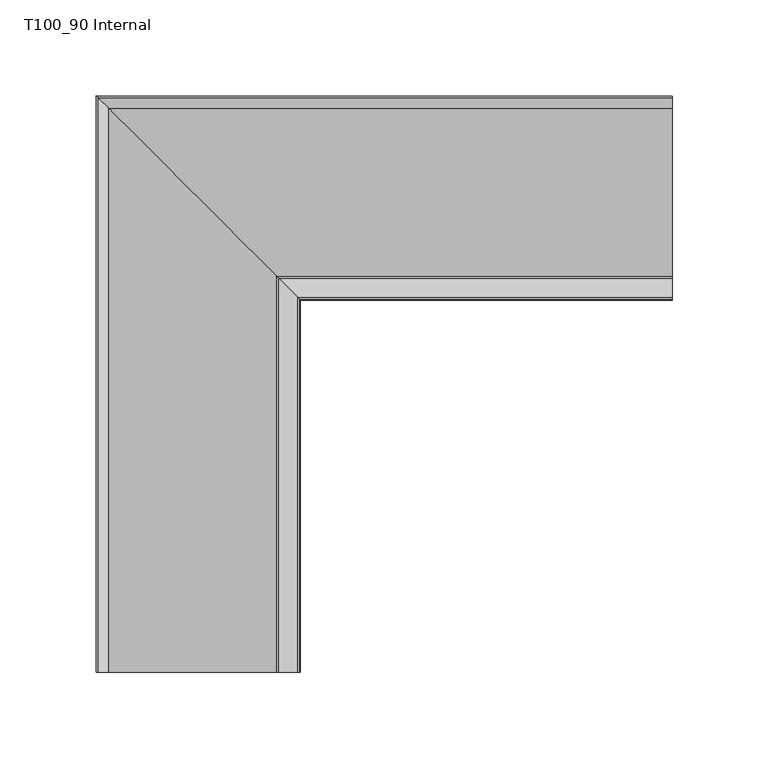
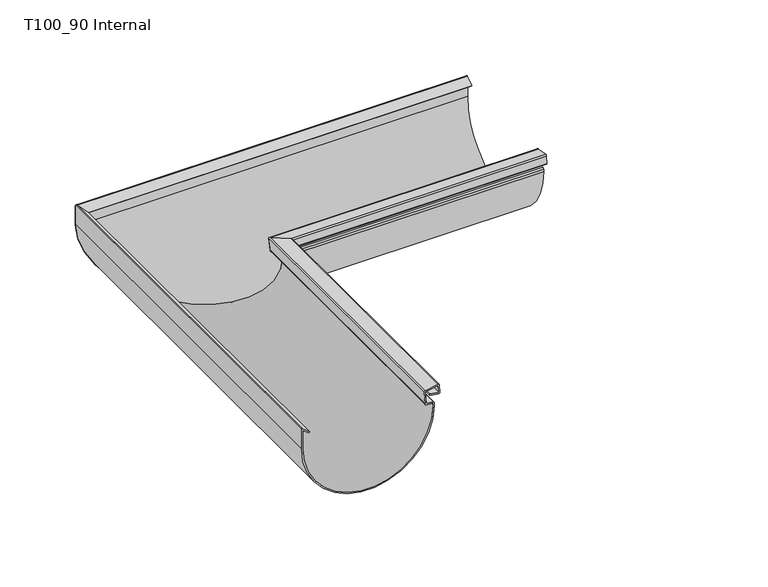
"""IFC4 building model written with IfcOpenShell, lengths in millimetres: proxy geometry, GROVIK_Gutter_Corner : T100_90 Internal."""

import ifcopenshell
import ifcopenshell.guid

model = None  # the IFC model being written
_history = None  # IfcOwnerHistory: only IFC2X3 demands one
_inside = {}  # id of a spatial element -> (the spatial element, [elements in it])
_under = {}  # id of a project, library or spatial element -> (it, [spatial elements below it])
_declared = {}  # id of a project -> (the project, [libraries it declares])
_typed = {}  # id of a type object -> (the type object, [elements of that type])
_made_of = {}  # id of a material, layer set ... -> (it, [elements and type objects made of it])


def new_model(schema):
    """Start an empty IFC model of exactly this schema.

    Asked for "IFC4X3", IfcOpenShell would pick the latest addendum, in which some entities
    have other attributes; the version numbers below select the first issue.
    IFC2X3 requires an IfcOwnerHistory on every rooted entity: one is made here for all.
    """
    global model, _history
    if schema == "IFC4X3":
        model = ifcopenshell.file(schema_version=(4, 3, 0, 0))
    else:
        model = ifcopenshell.file(schema=schema)
    _inside.clear()
    _under.clear()
    _declared.clear()
    _typed.clear()
    _made_of.clear()
    _history = None
    if model.schema == "IFC2X3":
        org = make("IfcOrganization", Name="unknown")
        user = make(
            "IfcPersonAndOrganization",
            ThePerson=make("IfcPerson", FamilyName="unknown"),
            TheOrganization=org,
        )
        app = make(
            "IfcApplication",
            ApplicationDeveloper=org,
            Version="unknown",
            ApplicationFullName="unknown",
            ApplicationIdentifier="unknown",
        )
        _history = make(
            "IfcOwnerHistory",
            OwningUser=user,
            OwningApplication=app,
            ChangeAction="ADDED",
            CreationDate=0,
        )
    return model


def make(cls, **values):
    """One entity of the class cls with the attributes given. An attribute that is None is left unset."""
    return model.create_entity(
        cls, **{name: value for name, value in values.items() if value is not None}
    )


def rooted(cls, **values):
    """An entity with a GlobalId (a new one), such as an element, a storey or a relation."""
    return make(cls, GlobalId=ifcopenshell.guid.new(), OwnerHistory=_history, **values)


def si_unit(unit_type, name, prefix=None):
    """IfcSIUnit, for example si_unit("LENGTHUNIT", "METRE", prefix="MILLI")."""
    return make("IfcSIUnit", UnitType=unit_type, Prefix=prefix, Name=name)


def assignment(units):
    """IfcUnitAssignment: the units of a project."""
    return None if units is None else make("IfcUnitAssignment", Units=units)


def point(xyz):
    """IfcCartesianPoint."""
    return None if xyz is None else make("IfcCartesianPoint", Coordinates=xyz)


def direction(xyz):
    """IfcDirection."""
    return None if xyz is None else make("IfcDirection", DirectionRatios=xyz)


def frame(location, z_axis=None, x_axis=None):
    """IfcAxis2Placement3D, a coordinate frame: its origin and axes. An axis left out is left unset."""
    return make(
        "IfcAxis2Placement3D",
        Location=point(location),
        Axis=direction(z_axis),
        RefDirection=direction(x_axis),
    )


def origin():
    """The frame at (0, 0, 0) with its axes left unset."""
    return frame((0.0, 0.0, 0.0))


def place(relative_to, where):
    """IfcLocalPlacement: puts the frame where relative to a parent placement (None: the world)."""
    return make(
        "IfcLocalPlacement", PlacementRelTo=relative_to, RelativePlacement=where
    )


def context(
    kind, dimensions, precision=None, world=None, true_north=None, identifier=None
):
    """IfcGeometricRepresentationContext, for example the 3D "Model" context."""
    return make(
        "IfcGeometricRepresentationContext",
        ContextIdentifier=identifier,
        ContextType=kind,
        CoordinateSpaceDimension=dimensions,
        Precision=precision,
        WorldCoordinateSystem=world,
        TrueNorth=true_north,
    )


def project(units=None, contexts=None):
    """IfcProject with its units and contexts."""
    return rooted(
        "IfcProject",
        Name="project",
        RepresentationContexts=contexts,
        UnitsInContext=assignment(units),
    )


def spatial(cls, under=None, at=None, **own):
    """A site, building, storey or space (cls), placed at a placement, below another one or the project."""
    s = rooted(cls, ObjectPlacement=at, **own)
    if under is not None:
        _under.setdefault(under.id(), (under, []))[1].append(s)
    return s


def polyline(points):
    """IfcPolyline through the points."""
    return make("IfcPolyline", Points=[point(p) for p in points])


def circle_curve(where, radius):
    """IfcCircle in the frame where."""
    return make("IfcCircle", Position=where, Radius=radius)


def ellipse_curve(where, semi_axis1, semi_axis2):
    """IfcEllipse in the frame where."""
    return make(
        "IfcEllipse", Position=where, SemiAxis1=semi_axis1, SemiAxis2=semi_axis2
    )


def shape(context_of_items, identifier, shape_type, items):
    """IfcShapeRepresentation: the items that make up one representation, for example the "Body"."""
    return make(
        "IfcShapeRepresentation",
        ContextOfItems=context_of_items,
        RepresentationIdentifier=identifier,
        RepresentationType=shape_type,
        Items=items,
    )


def source(mapping_origin, context_of_items, identifier, shape_type, items):
    """IfcRepresentationMap: a shape defined once, which mapped items show again and again."""
    return make(
        "IfcRepresentationMap",
        MappingOrigin=mapping_origin,
        MappedRepresentation=shape(context_of_items, identifier, shape_type, items),
    )


def transform(
    local_origin,
    x_axis=None,
    y_axis=None,
    z_axis=None,
    scale=None,
    scale2=None,
    scale3=None,
    uniform=True,
):
    """IfcCartesianTransformationOperator3D, or its non-uniform kind. x_axis, y_axis, z_axis: its Axis1, 2, 3."""
    if uniform:
        return make(
            "IfcCartesianTransformationOperator3D",
            Axis1=direction(x_axis),
            Axis2=direction(y_axis),
            LocalOrigin=point(local_origin),
            Scale=scale,
            Axis3=direction(z_axis),
        )
    return make(
        "IfcCartesianTransformationOperator3DnonUniform",
        Axis1=direction(x_axis),
        Axis2=direction(y_axis),
        LocalOrigin=point(local_origin),
        Scale=scale,
        Axis3=direction(z_axis),
        Scale2=scale2,
        Scale3=scale3,
    )


def mapped(mapping_source, mapping_target):
    """IfcMappedItem: shows the shape of a source again, moved by a transform."""
    return make(
        "IfcMappedItem", MappingSource=mapping_source, MappingTarget=mapping_target
    )


def made_of(thing, what):
    """Note that an element or type object is made of a material, layer set ...; save() writes the relation."""
    if what is not None:
        _made_of.setdefault(what.id(), (what, []))[1].append(thing)
    return thing


def element(
    cls,
    number,
    at=None,
    inside=None,
    cuts=None,
    type_object=None,
    material=None,
    context=None,
    identifier="Body",
    shape_type=None,
    held_by="IfcProductDefinitionShape",
    body=None,
    shapes=None,
    **own,
):
    """One element of the class cls, such as IfcWall. Its Tag is "e" and its number.

    at: its placement. inside: the storey or other place that contains it. cuts: it is an
    opening in that element (IfcRelVoidsElement). A single representation is given by context,
    identifier, shape_type and body (its items); several are given by shapes. held_by: the class
    of the entity that holds the representations. save() writes the other relations.
    """
    e = rooted(cls, Tag="e%d" % number, ObjectPlacement=at, **own)
    if body is not None:
        shapes = [shape(context, identifier, shape_type, body)]
    if shapes is not None:
        e.Representation = make(held_by, Representations=shapes)
    if inside is not None:
        _inside.setdefault(inside.id(), (inside, []))[1].append(e)
    if cuts is not None:
        rooted(
            "IfcRelVoidsElement", RelatingBuildingElement=cuts, RelatedOpeningElement=e
        )
    if type_object is not None:
        _typed.setdefault(type_object.id(), (type_object, []))[1].append(e)
    return made_of(e, material)


def aggregate(whole, parts):
    """IfcRelAggregates: a whole, such as a stair, and the parts it consists of."""
    return rooted("IfcRelAggregates", RelatingObject=whole, RelatedObjects=parts)


def save(model, path):
    """Write the relations noted so far, then the file.

    IfcRelAggregates (storeys below a building ...), IfcRelContainedInSpatialStructure (elements
    in a storey), IfcRelDefinesByType, IfcRelAssociatesMaterial and IfcRelDeclares: one each for
    every whole, place, type object, material and project.
    """
    for whole, parts in _under.values():
        aggregate(whole, parts)
    for where, things in _inside.values():
        rooted(
            "IfcRelContainedInSpatialStructure",
            RelatedElements=things,
            RelatingStructure=where,
        )
    for kind, things in _typed.values():
        rooted("IfcRelDefinesByType", RelatedObjects=things, RelatingType=kind)
    for what, things in _made_of.values():
        rooted("IfcRelAssociatesMaterial", RelatedObjects=things, RelatingMaterial=what)
    for by, libraries in _declared.values():
        rooted("IfcRelDeclares", RelatingContext=by, RelatedDefinitions=libraries)
    model.write(path)


def plane_surface(at):
    """IfcPlane: the flat surface through the origin of the frame at, square to its z axis."""
    return make("IfcPlane", Position=at)


def cylinder_surface(at, radius):
    """IfcCylindricalSurface: all points at the distance radius from the z axis of the frame at."""
    return make("IfcCylindricalSurface", Position=at, Radius=radius)


def revolved_surface(curve, axis_point, axis_direction):
    """IfcSurfaceOfRevolution: the curve turned about the line through axis_point along axis_direction."""
    return make(
        "IfcSurfaceOfRevolution",
        SweptCurve=make("IfcArbitraryOpenProfileDef", ProfileType="CURVE", Curve=curve),
        AxisPosition=make("IfcAxis1Placement", Location=point(axis_point), Axis=direction(axis_direction)),
    )


def advanced_brep(points, edges, surfaces, faces):
    """IfcAdvancedBrep: a solid bounded by faces that lie on surfaces and meet in shared edges.

    An edge is (start, end): straight between two places in points (the first is 0);
    or (start, end, curve); or (start, end, curve, False) where it runs against its curve.
    A face is (place in surfaces, loops), or (place, loops, False) where it looks against
    its surface's normal. A loop lists edges by number (the first is 1), with a minus sign
    where the edge is run from its end to its start. The first loop is the outer one.
    """
    corners = [point(p) for p in points]
    vertices = [make("IfcVertexPoint", VertexGeometry=c) for c in corners]
    made = []
    for start, end, *more in edges:
        made.append(
            make(
                "IfcEdgeCurve",
                EdgeStart=vertices[start],
                EdgeEnd=vertices[end],
                EdgeGeometry=more[0] if more else make("IfcPolyline", Points=[corners[start], corners[end]]),
                SameSense=more[1] if len(more) > 1 else True,
            )
        )
    hull = []
    for where, loops, *sense in faces:
        bounds = []
        for j, loop in enumerate(loops):
            ring = [make("IfcOrientedEdge", EdgeElement=made[abs(k) - 1], Orientation=k > 0) for k in loop]
            bounds.append(
                make(
                    "IfcFaceOuterBound" if j == 0 else "IfcFaceBound",
                    Bound=make("IfcEdgeLoop", EdgeList=ring),
                    Orientation=True,
                )
            )
        hull.append(make("IfcAdvancedFace", Bounds=bounds, FaceSurface=surfaces[where], SameSense=sense[0] if sense else True))
    return make("IfcAdvancedBrep", Outer=make("IfcClosedShell", CfsFaces=hull))


def t100_90_internal_7f4eb375(model_context):
    return source(origin(), model_context, "Body", "AdvancedBrep", [
        advanced_brep(
        [(95.6785725, -300.0, -12.9222473), (94.8220658, -300.0, -3.1323306), (104.7816977, -300.0, -1.3761787), (105.2998033, -300.0, -7.2981526), (98.3413035, -300.0, -6.0711814), (98.1850202, -300.0, -6.9575084), (105.0151773, -300.0, -8.1618494), (106.1850202, -300.0, -7.0898859), (105.6885136, -300.0, -1.4147892), (104.6051631, -300.0, -0.5057502), (94.7570856, -300.0, -2.242232), (93.9345391, -300.0, -3.3141955), (94.7746841, -300.0, -12.9170968), (95.683723, -300.0, -13.8261357), (100.9, -300.0, -14.2825008), (100.9, -300.0, -16.3578028), (0.9, -300.0, -16.3578028), (0.9, -300.0, -1.3578028), (5.6494755, -300.0, -5.3430859), (6.2279844, -300.0, -4.6536459), (0.8213938, -300.0, -0.1169778), (0.0, -300.0, -0.5), (0.0, -300.0, -16.3578028), (101.8, -300.0, -16.3578028), (101.8, -300.0, -14.3741339), (100.8871557, -300.0, -13.3779392), (100.8871557, -100.6871557, -13.3779392), (95.6785725, -95.4785725, -12.9222473), (101.8, -101.6, -14.3741339), (101.8, -101.6, -16.3578028), (0.0, 0.2, -16.3578028), (0.0, 0.2, -0.5), (0.8213938, -0.6213938, -0.1169778), (6.2279844, -6.0279844, -4.6536459), (5.6494755, -5.4494755, -5.3430859), (0.9, -0.7, -1.3578028), (0.9, -0.7, -16.3578028), (100.9, -100.7, -16.3578028), (100.9, -100.7, -14.2825008), (95.683723, -95.483723, -13.8261357), (94.7746841, -94.5746841, -12.9170968), (93.9345391, -93.7345391, -3.3141955), (94.7570856, -94.5570856, -2.242232), (104.6051631, -104.4051631, -0.5057502), (105.6885136, -105.4885136, -1.4147892), (106.1850202, -105.9850202, -7.0898859), (105.0151773, -104.8151773, -8.1618494), (98.1850202, -97.9850202, -6.9575084), (98.3413035, -98.1413035, -6.0711814), (105.2998033, -105.0998033, -7.2981526), (104.7816977, -104.5816977, -1.3761787), (94.8220658, -94.6220658, -3.1323306)],
        [
            (0, 1),
            (1, 2),
            (2, 3),
            (3, 4),
            (4, 5),
            (5, 6),
            (6, 7, circle_curve(frame((105.1888255, -300.0, -7.1770416), z_axis=(0.0, -1.0, 0.0), x_axis=(-1.0, 0.0, 0.0)), 1.0)),
            (7, 8),
            (8, 9, circle_curve(frame((104.6923189, -300.0, -1.5019449), z_axis=(0.0, -1.0, 0.0), x_axis=(-1.0, 0.0, 0.0)), 1.0)),
            (9, 10),
            (10, 11, circle_curve(frame((94.9307338, -300.0, -3.2270397), z_axis=(0.0, -1.0, 0.0), x_axis=(-1.0, 0.0, 0.0)), 1.0)),
            (11, 12),
            (12, 13, circle_curve(frame((95.683723, -300.0, -12.9170968), z_axis=(0.0, -1.0, 0.0), x_axis=(-1.0, 0.0, 0.0)), 0.909039)),
            (13, 14),
            (14, 15),
            (15, 16, circle_curve(frame((50.9, -300.0, -16.3578028), z_axis=(0.0, 1.0, 0.0), x_axis=(-1.0, 0.0, 0.0)), 50.0)),
            (16, 17),
            (17, 18),
            (18, 19),
            (19, 20),
            (20, 21, circle_curve(frame((0.5, -300.0, -0.5), z_axis=(0.0, -1.0, 0.0), x_axis=(-1.0, 0.0, 0.0)), 0.5)),
            (21, 22),
            (22, 23, circle_curve(frame((50.9, -300.0, -16.3578028), z_axis=(0.0, -1.0, 0.0), x_axis=(-1.0, 0.0, 0.0)), 50.9)),
            (23, 24),
            (24, 25, circle_curve(frame((100.8, -300.0, -14.3741339), z_axis=(0.0, -1.0, 0.0), x_axis=(-1.0, 0.0, 0.0)), 1.0)),
            (25, 0),
            (25, 26),
            (26, 27),
            (27, 0),
            (24, 28),
            (28, 26, ellipse_curve(frame((100.8, -100.6, -14.3741339), z_axis=(-0.7071067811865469, -0.7071067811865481, 0.0), x_axis=(0.7071067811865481, -0.7071067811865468, 0.0)), 1.4142136, 1.0)),
            (23, 29),
            (29, 28),
            (22, 30),
            (30, 29, ellipse_curve(frame((50.9, -50.7, -16.3578028), z_axis=(-0.7071067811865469, -0.7071067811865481, 0.0), x_axis=(0.7071067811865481, -0.7071067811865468, 0.0)), 71.9834703, 50.9)),
            (21, 31),
            (31, 30),
            (20, 32),
            (32, 31, ellipse_curve(frame((0.5, -0.3, -0.5), z_axis=(-0.7071067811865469, -0.7071067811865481, 0.0), x_axis=(0.7071067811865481, -0.7071067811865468, 0.0)), 0.7071068, 0.5)),
            (19, 33),
            (33, 32),
            (18, 34),
            (34, 33),
            (17, 35),
            (35, 34),
            (16, 36),
            (36, 35),
            (15, 37),
            (37, 36, ellipse_curve(frame((50.9, -50.7, -16.3578028), z_axis=(0.7071067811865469, 0.7071067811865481, 0.0), x_axis=(-0.7071067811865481, 0.7071067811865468, 0.0)), 70.7106781, 50.0)),
            (14, 38),
            (38, 37),
            (13, 39),
            (39, 38),
            (12, 40),
            (40, 39, ellipse_curve(frame((95.683723, -95.483723, -12.9170968), z_axis=(-0.7071067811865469, -0.7071067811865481, 0.0), x_axis=(0.7071067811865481, -0.7071067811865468, 0.0)), 1.2855752, 0.909039)),
            (11, 41),
            (41, 40),
            (10, 42),
            (42, 41, ellipse_curve(frame((94.9307338, -94.7307338, -3.2270397), z_axis=(-0.7071067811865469, -0.7071067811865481, 0.0), x_axis=(0.7071067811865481, -0.7071067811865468, 0.0)), 1.4142136, 1.0)),
            (9, 43),
            (43, 42),
            (8, 44),
            (44, 43, ellipse_curve(frame((104.6923189, -104.4923189, -1.5019449), z_axis=(-0.7071067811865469, -0.7071067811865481, 0.0), x_axis=(0.7071067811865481, -0.7071067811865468, 0.0)), 1.4142136, 1.0)),
            (7, 45),
            (45, 44),
            (6, 46),
            (46, 45, ellipse_curve(frame((105.1888255, -104.9888255, -7.1770416), z_axis=(-0.7071067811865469, -0.7071067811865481, 0.0), x_axis=(0.7071067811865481, -0.7071067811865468, 0.0)), 1.4142136, 1.0)),
            (5, 47),
            (47, 46),
            (4, 48),
            (48, 47),
            (3, 49),
            (49, 48),
            (2, 50),
            (50, 49),
            (1, 51),
            (51, 50),
            (27, 51),
        ],
        [
            plane_surface(frame((0.0, -300.0, 0.0), z_axis=(0.0, -1.0, 0.0), x_axis=(0.0, 0.0, 1.0))),
            plane_surface(frame((95.6785725, -300.0, -12.9222473), z_axis=(0.087155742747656, 0.0, 0.9961946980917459), x_axis=(0.0, 1.0, 0.0))),
            cylinder_surface(frame((100.8, -300.0, -14.3741339), z_axis=(0.0, -1.0, 0.0), x_axis=(-1.0, 0.0, 0.0)), 1.0),
            plane_surface(frame((101.8, -300.0, -14.3741339), z_axis=(1.0, 0.0, 0.0), x_axis=(0.0, 1.0, 0.0))),
            cylinder_surface(frame((50.9, -300.0, -16.3578028), z_axis=(0.0, -1.0, 0.0), x_axis=(-1.0, 0.0, 0.0)), 50.9),
            plane_surface(frame((0.0, -300.0, -16.3578028), z_axis=(-1.0, 0.0, 0.0), x_axis=(0.0, 1.0, 0.0))),
            cylinder_surface(frame((0.5, -300.0, -0.5), z_axis=(0.0, -1.0, 0.0), x_axis=(-1.0, 0.0, 0.0)), 0.5),
            plane_surface(frame((0.8213938, -300.0, -0.1169778), z_axis=(0.6427876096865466, 0.0, 0.7660444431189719), x_axis=(0.0, 1.0, 0.0))),
            plane_surface(frame((6.2279844, -300.0, -4.6536459), z_axis=(0.7660444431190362, 0.0, -0.6427876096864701), x_axis=(0.0, 1.0, 0.0))),
            plane_surface(frame((5.6494755, -300.0, -5.3430859), z_axis=(-0.6427876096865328, 0.0, -0.7660444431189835), x_axis=(0.0, 1.0, 0.0))),
            plane_surface(frame((0.9, -300.0, -1.3578028), z_axis=(1.0, 0.0, 0.0), x_axis=(0.0, 1.0, 0.0))),
            revolved_surface(polyline([(0.8999999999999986, -0.6999999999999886, -16.3578028), (0.8999999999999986, -300.0, -16.3578028)]), (50.9, -300.0, -16.3578028), (0.0, 1.0, 0.0)),
            plane_surface(frame((100.9, -300.0, -16.3578028), z_axis=(-1.0, 0.0, 0.0), x_axis=(0.0, 1.0, 0.0))),
            plane_surface(frame((100.9, -300.0, -14.2825008), z_axis=(-0.08715574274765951, 0.0, -0.9961946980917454), x_axis=(0.0, 1.0, 0.0))),
            cylinder_surface(frame((95.683723, -300.0, -12.9170968), z_axis=(0.0, -1.0, 0.0), x_axis=(-1.0, 0.0, 0.0)), 0.909039),
            plane_surface(frame((94.7746841, -300.0, -12.9170968), z_axis=(-0.9961946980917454, 0.0, -0.08715574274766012), x_axis=(0.0, 1.0, 0.0))),
            cylinder_surface(frame((94.9307338, -300.0, -3.2270397), z_axis=(0.0, -1.0, 0.0), x_axis=(-1.0, 0.0, 0.0)), 1.0),
            plane_surface(frame((94.7570856, -300.0, -2.242232), z_axis=(-0.17364817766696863, 0.0, 0.9848077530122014), x_axis=(0.0, 1.0, 0.0))),
            cylinder_surface(frame((104.6923189, -300.0, -1.5019449), z_axis=(0.0, -1.0, 0.0), x_axis=(-1.0, 0.0, 0.0)), 1.0),
            plane_surface(frame((105.6885136, -300.0, -1.4147892), z_axis=(0.9961946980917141, 0.0, 0.08715574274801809), x_axis=(0.0, 1.0, 0.0))),
            cylinder_surface(frame((105.1888255, -300.0, -7.1770416), z_axis=(0.0, -1.0, 0.0), x_axis=(-1.0, 0.0, 0.0)), 1.0),
            plane_surface(frame((105.0151773, -300.0, -8.1618494), z_axis=(-0.17364817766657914, 0.0, -0.9848077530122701), x_axis=(0.0, 1.0, 0.0))),
            plane_surface(frame((98.1850202, -300.0, -6.9575084), z_axis=(-0.9848077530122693, 0.0, 0.17364817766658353), x_axis=(0.0, 1.0, 0.0))),
            plane_surface(frame((98.3413035, -300.0, -6.0711814), z_axis=(0.17364817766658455, 0.0, 0.9848077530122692), x_axis=(0.0, 1.0, 0.0))),
            plane_surface(frame((105.2998033, -300.0, -7.2981526), z_axis=(-0.9961946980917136, 0.0, -0.0871557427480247), x_axis=(0.0, 1.0, 0.0))),
            plane_surface(frame((104.7816977, -300.0, -1.3761787), z_axis=(0.17364817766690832, 0.0, -0.984807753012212), x_axis=(0.0, 1.0, 0.0))),
            plane_surface(frame((94.8220658, -300.0, -3.1323306), z_axis=(0.996194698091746, 0.0, 0.08715574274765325), x_axis=(0.0, 1.0, 0.0))),
            plane_surface(frame((106.4, -106.2, 250.0), z_axis=(0.7071067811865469, 0.7071067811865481, 0.0), x_axis=(0.0, 0.0, -1.0))),
        ],
        [
            (0, [[1, 2, 3, 4, 5, 6, 7, 8, 9, 10, 11, 12, 13, 14, 15, 16, 17, 18, 19, 20, 21, 22, 23, 24, 25, 26]]),
            (1, [[27, 28, 29, -26]]),
            (2, [[30, 31, -27, -25]]),
            (3, [[32, 33, -30, -24]]),
            (4, [[34, 35, -32, -23]]),
            (5, [[36, 37, -34, -22]]),
            (6, [[38, 39, -36, -21]]),
            (7, [[40, 41, -38, -20]]),
            (8, [[42, 43, -40, -19]]),
            (9, [[44, 45, -42, -18]]),
            (10, [[46, 47, -44, -17]]),
            (11, [[48, 49, -46, -16]]),
            (12, [[50, 51, -48, -15]]),
            (13, [[52, 53, -50, -14]]),
            (14, [[54, 55, -52, -13]]),
            (15, [[56, 57, -54, -12]]),
            (16, [[58, 59, -56, -11]]),
            (17, [[60, 61, -58, -10]]),
            (18, [[62, 63, -60, -9]]),
            (19, [[64, 65, -62, -8]]),
            (20, [[66, 67, -64, -7]]),
            (21, [[68, 69, -66, -6]]),
            (22, [[70, 71, -68, -5]]),
            (23, [[72, 73, -70, -4]]),
            (24, [[74, 75, -72, -3]]),
            (25, [[76, 77, -74, -2]]),
            (26, [[-29, 78, -76, -1]]),
            (27, [[-31, -33, -35, -37, -39, -41, -43, -45, -47, -49, -51, -53, -55, -57, -59, -61, -63, -65, -67, -69, -71, -73, -75, -77, -78, -28]]),
        ],
    ),
        advanced_brep(
        [(300.0, -95.6785725, -12.9222473), (300.0, -100.8871557, -13.3779392), (300.0, -101.8, -14.3741339), (300.0, -101.8, -16.3578028), (300.0, 0.0, -16.3578028), (300.0, 0.0, -0.5), (300.0, -0.8213938, -0.1169778), (300.0, -6.2279844, -4.6536459), (300.0, -5.6494755, -5.3430859), (300.0, -0.9, -1.3578028), (300.0, -0.9, -16.3578028), (300.0, -100.9, -16.3578028), (300.0, -100.9, -14.2825008), (300.0, -95.683723, -13.8261357), (300.0, -94.7746841, -12.9170968), (300.0, -93.9345391, -3.3141955), (300.0, -94.7570856, -2.242232), (300.0, -104.6051631, -0.5057502), (300.0, -105.6885136, -1.4147892), (300.0, -106.1850202, -7.0898859), (300.0, -105.0151773, -8.1618494), (300.0, -98.1850202, -6.9575084), (300.0, -98.3413035, -6.0711814), (300.0, -105.2998033, -7.2981526), (300.0, -104.7816977, -1.3761787), (300.0, -94.8220658, -3.1323306), (95.4785725, -95.6785725, -12.9222473), (100.6871557, -100.8871557, -13.3779392), (101.6, -101.8, -14.3741339), (101.6, -101.8, -16.3578028), (-0.2, 0.0, -16.3578028), (-0.2, 0.0, -0.5), (0.6213938, -0.8213938, -0.1169778), (6.0279844, -6.2279844, -4.6536459), (5.4494755, -5.6494755, -5.3430859), (0.7, -0.9, -1.3578028), (0.7, -0.9, -16.3578028), (100.7, -100.9, -16.3578028), (100.7, -100.9, -14.2825008), (95.483723, -95.683723, -13.8261357), (94.5746841, -94.7746841, -12.9170968), (93.7345391, -93.9345391, -3.3141955), (94.5570856, -94.7570856, -2.242232), (104.4051631, -104.6051631, -0.5057502), (105.4885136, -105.6885136, -1.4147892), (105.9850202, -106.1850202, -7.0898859), (104.8151773, -105.0151773, -8.1618494), (97.9850202, -98.1850202, -6.9575084), (98.1413035, -98.3413035, -6.0711814), (105.0998033, -105.2998033, -7.2981526), (104.5816977, -104.7816977, -1.3761787), (94.6220658, -94.8220658, -3.1323306)],
        [
            (0, 1),
            (1, 2, circle_curve(frame((300.0, -100.8, -14.3741339), z_axis=(1.0, 0.0, 0.0), x_axis=(0.0, 1.0, 0.0)), 1.0)),
            (2, 3),
            (3, 4, circle_curve(frame((300.0, -50.9, -16.3578028), z_axis=(1.0, 0.0, 0.0), x_axis=(0.0, 1.0, 0.0)), 50.9)),
            (4, 5),
            (5, 6, circle_curve(frame((300.0, -0.5, -0.5), z_axis=(1.0, 0.0, 0.0), x_axis=(0.0, 1.0, 0.0)), 0.5)),
            (6, 7),
            (7, 8),
            (8, 9),
            (9, 10),
            (10, 11, circle_curve(frame((300.0, -50.9, -16.3578028), z_axis=(-1.0, 0.0, 0.0), x_axis=(0.0, 1.0, 0.0)), 50.0)),
            (11, 12),
            (12, 13),
            (13, 14, circle_curve(frame((300.0, -95.683723, -12.9170968), z_axis=(1.0, 0.0, 0.0), x_axis=(0.0, 1.0, 0.0)), 0.909039)),
            (14, 15),
            (15, 16, circle_curve(frame((300.0, -94.9307338, -3.2270397), z_axis=(1.0, 0.0, 0.0), x_axis=(0.0, 1.0, 0.0)), 1.0)),
            (16, 17),
            (17, 18, circle_curve(frame((300.0, -104.6923189, -1.5019449), z_axis=(1.0, 0.0, 0.0), x_axis=(0.0, 1.0, 0.0)), 1.0)),
            (18, 19),
            (19, 20, circle_curve(frame((300.0, -105.1888255, -7.1770416), z_axis=(1.0, 0.0, 0.0), x_axis=(0.0, 1.0, 0.0)), 1.0)),
            (20, 21),
            (21, 22),
            (22, 23),
            (23, 24),
            (24, 25),
            (25, 0),
            (0, 26),
            (26, 27),
            (27, 1),
            (27, 28, ellipse_curve(frame((100.6, -100.8, -14.3741339), z_axis=(0.707106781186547, 0.707106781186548, 0.0), x_axis=(0.7071067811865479, -0.707106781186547, 0.0)), 1.4142136, 1.0)),
            (28, 2),
            (28, 29),
            (29, 3),
            (29, 30, ellipse_curve(frame((50.7, -50.9, -16.3578028), z_axis=(0.707106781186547, 0.707106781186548, 0.0), x_axis=(0.7071067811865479, -0.707106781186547, 0.0)), 71.9834703, 50.9)),
            (30, 4),
            (30, 31),
            (31, 5),
            (31, 32, ellipse_curve(frame((0.3, -0.5, -0.5), z_axis=(0.707106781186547, 0.707106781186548, 0.0), x_axis=(0.7071067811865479, -0.707106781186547, 0.0)), 0.7071068, 0.5)),
            (32, 6),
            (32, 33),
            (33, 7),
            (33, 34),
            (34, 8),
            (34, 35),
            (35, 9),
            (35, 36),
            (36, 10),
            (36, 37, ellipse_curve(frame((50.7, -50.9, -16.3578028), z_axis=(-0.707106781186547, -0.707106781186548, 0.0), x_axis=(-0.7071067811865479, 0.707106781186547, 0.0)), 70.7106781, 50.0)),
            (37, 11),
            (37, 38),
            (38, 12),
            (38, 39),
            (39, 13),
            (39, 40, ellipse_curve(frame((95.483723, -95.683723, -12.9170968), z_axis=(0.707106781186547, 0.707106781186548, 0.0), x_axis=(0.7071067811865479, -0.707106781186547, 0.0)), 1.2855752, 0.909039)),
            (40, 14),
            (40, 41),
            (41, 15),
            (41, 42, ellipse_curve(frame((94.7307338, -94.9307338, -3.2270397), z_axis=(0.707106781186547, 0.707106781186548, 0.0), x_axis=(0.7071067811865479, -0.707106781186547, 0.0)), 1.4142136, 1.0)),
            (42, 16),
            (42, 43),
            (43, 17),
            (43, 44, ellipse_curve(frame((104.4923189, -104.6923189, -1.5019449), z_axis=(0.707106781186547, 0.707106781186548, 0.0), x_axis=(0.7071067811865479, -0.707106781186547, 0.0)), 1.4142136, 1.0)),
            (44, 18),
            (44, 45),
            (45, 19),
            (45, 46, ellipse_curve(frame((104.9888255, -105.1888255, -7.1770416), z_axis=(0.707106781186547, 0.707106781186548, 0.0), x_axis=(0.7071067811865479, -0.707106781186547, 0.0)), 1.4142136, 1.0)),
            (46, 20),
            (46, 47),
            (47, 21),
            (47, 48),
            (48, 22),
            (48, 49),
            (49, 23),
            (49, 50),
            (50, 24),
            (50, 51),
            (51, 25),
            (51, 26),
        ],
        [
            plane_surface(frame((300.0, 0.0, 0.0), z_axis=(1.0, 0.0, 0.0), x_axis=(0.0, 0.0, 1.0))),
            plane_surface(frame((300.0, -95.6785725, -12.9222473), z_axis=(0.0, -0.087155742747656, 0.9961946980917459), x_axis=(-1.0, 0.0, 0.0))),
            cylinder_surface(frame((300.0, -100.8, -14.3741339), z_axis=(1.0, 0.0, 0.0), x_axis=(0.0, 1.0, 0.0)), 1.0),
            plane_surface(frame((300.0, -101.8, -14.3741339), z_axis=(0.0, -1.0, 0.0), x_axis=(-1.0, 0.0, 0.0))),
            cylinder_surface(frame((300.0, -50.9, -16.3578028), z_axis=(1.0, 0.0, 0.0), x_axis=(0.0, 1.0, 0.0)), 50.9),
            plane_surface(frame((300.0, 0.0, -16.3578028), z_axis=(0.0, 1.0, 0.0), x_axis=(-1.0, 0.0, 0.0))),
            cylinder_surface(frame((300.0, -0.5, -0.5), z_axis=(1.0, 0.0, 0.0), x_axis=(0.0, 1.0, 0.0)), 0.5),
            plane_surface(frame((300.0, -0.8213938, -0.1169778), z_axis=(0.0, -0.6427876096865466, 0.7660444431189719), x_axis=(-1.0, 0.0, 0.0))),
            plane_surface(frame((300.0, -6.2279844, -4.6536459), z_axis=(0.0, -0.7660444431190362, -0.6427876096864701), x_axis=(-1.0, 0.0, 0.0))),
            plane_surface(frame((300.0, -5.6494755, -5.3430859), z_axis=(0.0, 0.6427876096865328, -0.7660444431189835), x_axis=(-1.0, 0.0, 0.0))),
            plane_surface(frame((300.0, -0.9, -1.3578028), z_axis=(0.0, -1.0, 0.0), x_axis=(-1.0, 0.0, 0.0))),
            revolved_surface(polyline([(0.6999999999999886, -0.8999999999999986, -16.3578028), (300.0, -0.8999999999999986, -16.3578028)]), (300.0, -50.9, -16.3578028), (-1.0, 0.0, 0.0)),
            plane_surface(frame((300.0, -100.9, -16.3578028), z_axis=(0.0, 1.0, 0.0), x_axis=(-1.0, 0.0, 0.0))),
            plane_surface(frame((300.0, -100.9, -14.2825008), z_axis=(0.0, 0.08715574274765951, -0.9961946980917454), x_axis=(-1.0, 0.0, 0.0))),
            cylinder_surface(frame((300.0, -95.683723, -12.9170968), z_axis=(1.0, 0.0, 0.0), x_axis=(0.0, 1.0, 0.0)), 0.909039),
            plane_surface(frame((300.0, -94.7746841, -12.9170968), z_axis=(0.0, 0.9961946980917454, -0.08715574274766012), x_axis=(-1.0, 0.0, 0.0))),
            cylinder_surface(frame((300.0, -94.9307338, -3.2270397), z_axis=(1.0, 0.0, 0.0), x_axis=(0.0, 1.0, 0.0)), 1.0),
            plane_surface(frame((300.0, -94.7570856, -2.242232), z_axis=(0.0, 0.17364817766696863, 0.9848077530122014), x_axis=(-1.0, 0.0, 0.0))),
            cylinder_surface(frame((300.0, -104.6923189, -1.5019449), z_axis=(1.0, 0.0, 0.0), x_axis=(0.0, 1.0, 0.0)), 1.0),
            plane_surface(frame((300.0, -105.6885136, -1.4147892), z_axis=(0.0, -0.9961946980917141, 0.08715574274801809), x_axis=(-1.0, 0.0, 0.0))),
            cylinder_surface(frame((300.0, -105.1888255, -7.1770416), z_axis=(1.0, 0.0, 0.0), x_axis=(0.0, 1.0, 0.0)), 1.0),
            plane_surface(frame((300.0, -105.0151773, -8.1618494), z_axis=(0.0, 0.17364817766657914, -0.9848077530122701), x_axis=(-1.0, 0.0, 0.0))),
            plane_surface(frame((300.0, -98.1850202, -6.9575084), z_axis=(0.0, 0.9848077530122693, 0.17364817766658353), x_axis=(-1.0, 0.0, 0.0))),
            plane_surface(frame((300.0, -98.3413035, -6.0711814), z_axis=(0.0, -0.17364817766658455, 0.9848077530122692), x_axis=(-1.0, 0.0, 0.0))),
            plane_surface(frame((300.0, -105.2998033, -7.2981526), z_axis=(0.0, 0.9961946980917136, -0.0871557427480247), x_axis=(-1.0, 0.0, 0.0))),
            plane_surface(frame((300.0, -104.7816977, -1.3761787), z_axis=(0.0, -0.17364817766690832, -0.984807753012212), x_axis=(-1.0, 0.0, 0.0))),
            plane_surface(frame((300.0, -94.8220658, -3.1323306), z_axis=(0.0, -0.996194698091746, 0.08715574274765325), x_axis=(-1.0, 0.0, 0.0))),
            plane_surface(frame((106.2, -106.4, 250.0), z_axis=(-0.707106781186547, -0.707106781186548, 0.0), x_axis=(0.0, 0.0, -1.0))),
        ],
        [
            (0, [[1, 2, 3, 4, 5, 6, 7, 8, 9, 10, 11, 12, 13, 14, 15, 16, 17, 18, 19, 20, 21, 22, 23, 24, 25, 26]]),
            (1, [[-1, 27, 28, 29]]),
            (2, [[-2, -29, 30, 31]]),
            (3, [[-3, -31, 32, 33]]),
            (4, [[-4, -33, 34, 35]]),
            (5, [[-5, -35, 36, 37]]),
            (6, [[-6, -37, 38, 39]]),
            (7, [[-7, -39, 40, 41]]),
            (8, [[-8, -41, 42, 43]]),
            (9, [[-9, -43, 44, 45]]),
            (10, [[-10, -45, 46, 47]]),
            (11, [[-11, -47, 48, 49]]),
            (12, [[-12, -49, 50, 51]]),
            (13, [[-13, -51, 52, 53]]),
            (14, [[-14, -53, 54, 55]]),
            (15, [[-15, -55, 56, 57]]),
            (16, [[-16, -57, 58, 59]]),
            (17, [[-17, -59, 60, 61]]),
            (18, [[-18, -61, 62, 63]]),
            (19, [[-19, -63, 64, 65]]),
            (20, [[-20, -65, 66, 67]]),
            (21, [[-21, -67, 68, 69]]),
            (22, [[-22, -69, 70, 71]]),
            (23, [[-23, -71, 72, 73]]),
            (24, [[-24, -73, 74, 75]]),
            (25, [[-25, -75, 76, 77]]),
            (26, [[-26, -77, 78, -27]]),
            (27, [[-28, -78, -76, -74, -72, -70, -68, -66, -64, -62, -60, -58, -56, -54, -52, -50, -48, -46, -44, -42, -40, -38, -36, -34, -32, -30]]),
        ],
    ),
    ])


if __name__ == "__main__":
    model = new_model("IFC4")
    model_context = context("Model", 3, world=origin())
    ifc_project = project(units=[si_unit("LENGTHUNIT", "METRE", prefix="MILLI")], contexts=[model_context])
    site = spatial("IfcSite", under=ifc_project)
    building = spatial("IfcBuilding", under=site)
    placement = place(None, origin())
    t100_90_internal_shape = t100_90_internal_7f4eb375(model_context)
    element("IfcBuildingElementProxy", 1, Name="GROVIK_Gutter_Corner : T100_90 Internal", ObjectType="GROVIK_Gutter_Corner : T100_90 Internal", at=placement, inside=building, context=model_context, shape_type="MappedRepresentation", body=[
        mapped(t100_90_internal_shape, transform((0.0, 0.0, 0.0), x_axis=(1.0, 0.0, 0.0), y_axis=(0.0, 1.0, 0.0), z_axis=(0.0, 0.0, 1.0))),
    ])
    save(model, "model.ifc")
